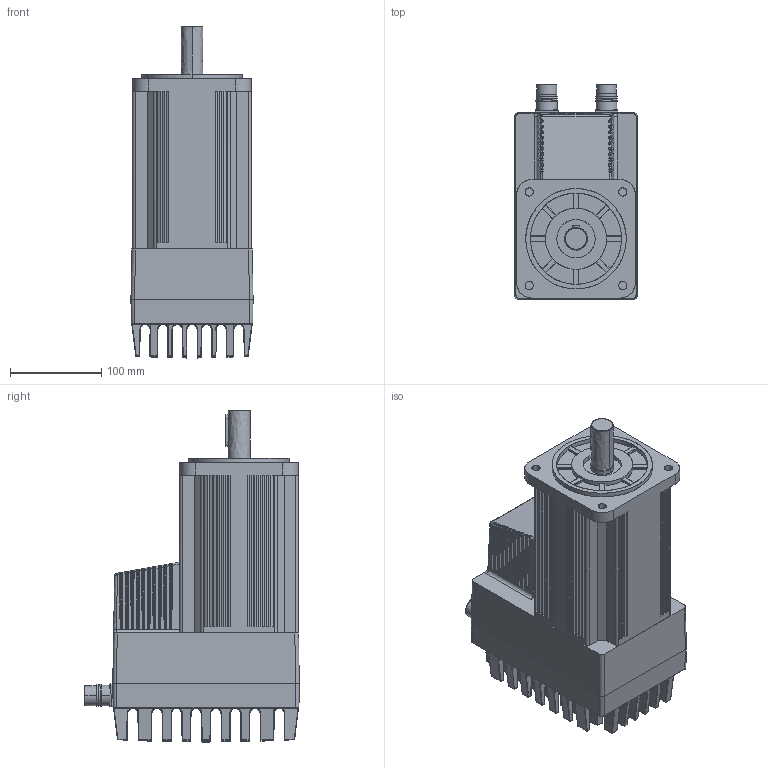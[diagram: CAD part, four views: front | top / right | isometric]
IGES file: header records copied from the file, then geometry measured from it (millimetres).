
Start section: Comment
Global section: file name: MAC1500-D5 V1_3.igs; native system:  By UGS Corp.; preprocessor: XPlus GENERIC/IGES 3.0; author: Author; organization: Title; date: 20150617.132200; units: millimetre
Bounding box: 133.88 x 235.28 x 363.88 mm (x, y, z)
Surface area: 494089.3 mm2 (no closed solid volume)
Topology: 0 solids, 0 shells, 2544 faces, 12499 edges, 12452 vertices
Faces by surface type: bspline 2544
